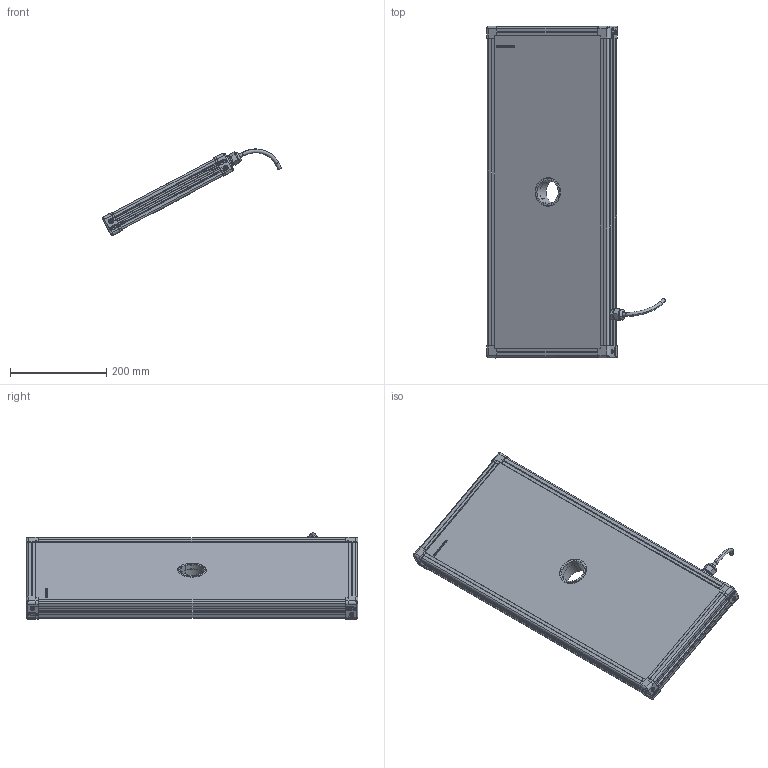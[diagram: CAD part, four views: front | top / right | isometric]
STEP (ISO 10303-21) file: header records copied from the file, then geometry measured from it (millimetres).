
FILE_DESCRIPTION (( 'STEP AP214' ), '1' );
FILE_NAME ('EFFI-BL-250-650-ZZZ-1M12P.STEP', '2021-06-21T08:28:06', ( '' ), ( '' ), 'SwSTEP 2.0', 'SolidWorks 2021', '' );
FILE_SCHEMA (( 'AUTOMOTIVE_DESIGN' ));
Length unit declared in the file: millimetre
Products named in the file (13): M12 power_AVEC CABLE D8.1; EFFI-BL-250-650-ZZZ-1M12P; Pièce13^EFFI-BL-XXX-YYY-ZZZ (1 connecteur) M12POWER Ø50; Assemblage Ø50; profile X_PERCE; 001039; profile Y_PERCE; 001040; 000590; petite joue; petite joue + vis; 000629
Assembly tree (19 placements, depth 3):
  EFFI-BL-250-650-ZZZ-1M12P
    profile X_PERCE  x2
    profile Y_PERCE
    profile Y_PERCE
    Pièce13^EFFI-BL-XXX-YYY-ZZZ (1 connecteur) M12POWER Ø50
    petite joue + vis  x4
      petite joue
      000629
    M12 power_AVEC CABLE D8.1
    Assemblage Ø50
      001039
      001040
      000590  x3
Bounding box: 370.8 x 689 x 179.05 mm (x, y, z)
Volume: 6810442.6 mm3; surface area: 717138.5 mm2
Topology: 22 solids, 25 shells, 3946 faces, 10510 edges, 6901 vertices
Faces by surface type: plane 2446, cylinder 718, bspline 591, cone 154, torus 29, sphere 8
Entity records: 55870 total; most frequent: CARTESIAN_POINT 22540, ORIENTED_EDGE 6994, DIRECTION 5720, EDGE_CURVE 3499, VECTOR 2454, LINE 2454, VERTEX_POINT 2302, AXIS2_PLACEMENT_3D 1633
